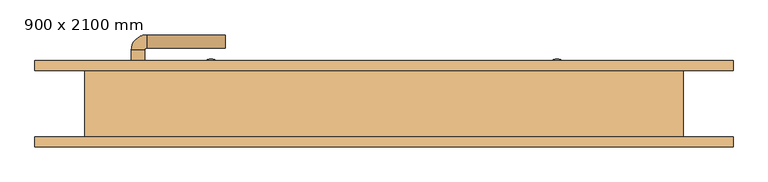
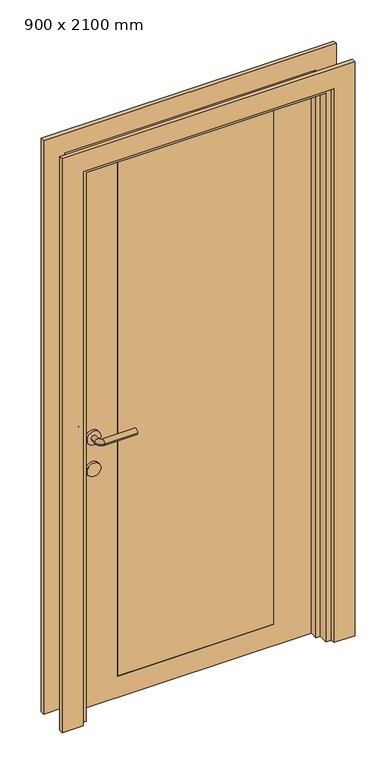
"""IFC4 building model written with IfcOpenShell, lengths in millimetres: door geometry, 单扇平开门-木门 : 900 x 2100 mm."""

from ifc_helpers import new_model, si_unit, point, frame, frame_2d, origin, origin_with_axes, place, context, project, spatial, polyline, circle_curve, ellipse_curve, trimmed, segment, composite_curve, outline, extrude, faceted_brep, source, transform, mapped, element, save
from ifc_brep_helpers import plane_surface, cylinder_surface, revolved_surface, advanced_brep


def door_900_x_2100_mm_efe0f083(model_context):
    return source(origin(), model_context, "Body", "SolidModel", [
        extrude(outline(composite_curve([segment(trimmed(circle_curve(frame_2d((900.0, -370.0)), 25.0), [point((900.0, -345.0))], [point((900.0, -395.0))], False, "CARTESIAN"), True, "CONTINUOUS"), segment(trimmed(circle_curve(frame_2d((900.0, -370.0)), 25.0), [point((900.0, -395.0))], [point((900.0, -345.0))], False, "CARTESIAN"), True, "CONTINUOUS")], self_intersect=False)), frame((0.0, 5.0, 0.0), z_axis=(0.0, 1.0, 0.0), x_axis=(0.0, 0.0, 1.0)), (0.0, 0.0, 1.0), 10.0),
        extrude(outline(composite_curve([segment(trimmed(circle_curve(frame_2d((900.0, -370.0)), 25.0), [point((900.0, -345.0))], [point((900.0, -395.0))], False, "CARTESIAN"), True, "CONTINUOUS"), segment(trimmed(circle_curve(frame_2d((900.0, -370.0)), 25.0), [point((900.0, -395.0))], [point((900.0, -345.0))], False, "CARTESIAN"), True, "CONTINUOUS")], self_intersect=False)), frame((0.0, 50.0, 0.0), z_axis=(0.0, 1.0, 0.0), x_axis=(0.0, 0.0, 1.0)), (0.0, 0.0, 1.0), 10.0),
        advanced_brep(
        [(-380.0, 5.0, 1020.0), (-360.0, 5.0, 1020.0), (-360.0, -15.613355, 1020.0), (-380.0, -15.613355, 1020.0), (-238.419036, -38.580964, 1020.0), (-238.419036, -18.580964, 1020.0), (-357.0323911, -18.580964, 1020.0), (-357.0323911, -38.580964, 1020.0)],
        [
            (0, 1, circle_curve(frame((-370.0, 5.0, 1020.0), z_axis=(0.0, 1.0, 0.0), x_axis=(1.0, 0.0, 0.0)), 10.0)),
            (1, 0, circle_curve(frame((-370.0, 5.0, 1020.0), z_axis=(0.0, 1.0, 0.0), x_axis=(1.0, 0.0, 0.0)), 10.0)),
            (1, 2),
            (2, 3, circle_curve(frame((-370.0, -15.613355, 1020.0), z_axis=(0.0, 1.0, 0.0), x_axis=(1.0, 0.0, 0.0)), 10.0)),
            (3, 0),
            (3, 2, circle_curve(frame((-370.0, -15.613355, 1020.0), z_axis=(0.0, 1.0, 0.0), x_axis=(1.0, 0.0, 0.0)), 10.0)),
            (4, 5, circle_curve(frame((-238.419036, -28.580964, 1020.0), z_axis=(1.0, 0.0, 0.0), x_axis=(0.0, 1.0, 0.0)), 10.0)),
            (5, 4, circle_curve(frame((-238.419036, -28.580964, 1020.0), z_axis=(1.0, 0.0, 0.0), x_axis=(0.0, 1.0, 0.0)), 10.0)),
            (6, 2, circle_curve(frame((-357.0323911, -15.613355, 1020.0), z_axis=(0.0, 0.0, -1.0), x_axis=(-1.0, 0.0, 0.0)), 2.9676089)),
            (3, 7, circle_curve(frame((-357.0323911, -15.613355, 1020.0), z_axis=(0.0, 0.0, 1.0), x_axis=(-1.0, 0.0, 0.0)), 22.9676089)),
            (7, 6, circle_curve(frame((-357.0323911, -28.580964, 1020.0), z_axis=(-1.0, 0.0, 0.0), x_axis=(0.0, 1.0, 0.0)), 10.0)),
            (6, 7, circle_curve(frame((-357.0323911, -28.580964, 1020.0), z_axis=(-1.0, 0.0, 0.0), x_axis=(0.0, 1.0, 0.0)), 10.0)),
            (7, 4),
            (5, 6),
        ],
        [
            plane_surface(frame((-370.0, 5.0, 900.0), z_axis=(0.0, 1.0, 0.0), x_axis=(0.0, 0.0, 1.0))),
            cylinder_surface(frame((-370.0, 5.0, 1020.0), z_axis=(0.0, 1.0, 0.0), x_axis=(1.0, 0.0, 0.0)), 10.0),
            plane_surface(frame((-238.419036, -28.580964, 900.0), z_axis=(1.0, 0.0, 0.0), x_axis=(0.0, 0.0, 1.0))),
            revolved_surface(trimmed(ellipse_curve(frame((-370.0, -15.613355, 1020.0), z_axis=(0.0, 1.0, 0.0), x_axis=(1.0, 0.0, 0.0)), 10.0, 10.0), [point((-380.0, -15.613355, 1020.0))], [point((-360.0, -15.613355, 1020.0))], True, "CARTESIAN"), (-357.0323911, -15.613355, 900.0), (0.0, 0.0, 1.0)),
            revolved_surface(trimmed(ellipse_curve(frame((-370.0, -15.613355, 1020.0), z_axis=(0.0, 1.0, 0.0), x_axis=(1.0, 0.0, 0.0)), 10.0, 10.0), [point((-360.0, -15.613355, 1020.0))], [point((-380.0, -15.613355, 1020.0))], True, "CARTESIAN"), (-357.0323911, -15.613355, 900.0), (0.0, 0.0, 1.0)),
            cylinder_surface(frame((-357.0323911, -28.580964, 1020.0), z_axis=(-1.0, 0.0, 0.0), x_axis=(0.0, 1.0, 0.0)), 10.0),
        ],
        [
            (0, [[1, 2]]),
            (1, [[-2, 3, 4, 5]]),
            (1, [[-1, -5, 6, -3]]),
            (2, [[7, 8]]),
            (3, [[9, -6, 10, 11]]),
            (4, [[-10, -4, -9, 12]]),
            (5, [[-11, 13, -8, 14]]),
            (5, [[-12, -14, -7, -13]]),
        ],
    ),
        extrude(outline(composite_curve([segment(trimmed(circle_curve(frame_2d((1020.0, -370.0)), 25.0), [point((1020.0, -345.0))], [point((1020.0, -395.0))], False, "CARTESIAN"), True, "CONTINUOUS"), segment(trimmed(circle_curve(frame_2d((1020.0, -370.0)), 25.0), [point((1020.0, -395.0))], [point((1020.0, -345.0))], False, "CARTESIAN"), True, "CONTINUOUS")], self_intersect=False)), frame((0.0, 5.0, 0.0), z_axis=(0.0, 1.0, 0.0), x_axis=(0.0, 0.0, 1.0)), (0.0, 0.0, 1.0), 10.0),
        advanced_brep(
        [(-360.0, 60.0, 1020.0), (-380.0, 60.0, 1020.0), (-360.0, 80.6133551, 1020.0), (-380.0, 80.6133551, 1020.0), (-238.419036, 83.580964, 1020.0), (-238.419036, 103.580964, 1020.0), (-357.0323911, 103.580964, 1020.0), (-357.0323911, 83.580964, 1020.0)],
        [
            (0, 1, circle_curve(frame((-370.0, 60.0, 1020.0), z_axis=(0.0, -1.0, 0.0), x_axis=(-1.0, 0.0, 0.0)), 10.0)),
            (1, 0, circle_curve(frame((-370.0, 60.0, 1020.0), z_axis=(0.0, -1.0, 0.0), x_axis=(-1.0, 0.0, 0.0)), 10.0)),
            (0, 2),
            (2, 3, circle_curve(frame((-370.0, 80.6133551, 1020.0), z_axis=(0.0, -1.0, 0.0), x_axis=(-1.0, 0.0, 0.0)), 10.0)),
            (3, 1),
            (3, 2, circle_curve(frame((-370.0, 80.6133551, 1020.0), z_axis=(0.0, -1.0, 0.0), x_axis=(-1.0, 0.0, 0.0)), 10.0)),
            (4, 5, circle_curve(frame((-238.419036, 93.580964, 1020.0), z_axis=(1.0, 0.0, 0.0), x_axis=(0.0, 1.0, 0.0)), 10.0)),
            (5, 4, circle_curve(frame((-238.419036, 93.580964, 1020.0), z_axis=(1.0, 0.0, 0.0), x_axis=(0.0, 1.0, 0.0)), 10.0)),
            (6, 3, circle_curve(frame((-357.0323911, 80.6133551, 1020.0), z_axis=(0.0, 0.0, 1.0), x_axis=(-1.0, 0.0, 0.0)), 22.9676089)),
            (2, 7, circle_curve(frame((-357.0323911, 80.6133551, 1020.0), z_axis=(0.0, 0.0, -1.0), x_axis=(-1.0, 0.0, 0.0)), 2.9676089)),
            (7, 6, circle_curve(frame((-357.0323911, 93.580964, 1020.0), z_axis=(-1.0, 0.0, 0.0), x_axis=(0.0, 1.0, 0.0)), 10.0)),
            (6, 7, circle_curve(frame((-357.0323911, 93.580964, 1020.0), z_axis=(-1.0, 0.0, 0.0), x_axis=(0.0, 1.0, 0.0)), 10.0)),
            (7, 4),
            (5, 6),
        ],
        [
            plane_surface(frame((-370.0, 60.0, 900.0), z_axis=(0.0, -1.0, 0.0), x_axis=(0.0, 0.0, 1.0))),
            cylinder_surface(frame((-370.0, 60.0, 1020.0), z_axis=(0.0, -1.0, 0.0), x_axis=(-1.0, 0.0, 0.0)), 10.0),
            plane_surface(frame((-238.419036, 93.580964, 900.0), z_axis=(1.0, 0.0, 0.0), x_axis=(0.0, 0.0, 1.0))),
            revolved_surface(trimmed(ellipse_curve(frame((-370.0, 80.6133551, 1020.0), z_axis=(0.0, -1.0, 0.0), x_axis=(-1.0, 0.0, 0.0)), 10.0, 10.0), [point((-360.0, 80.6133551, 1020.0))], [point((-380.0, 80.6133551, 1020.0))], True, "CARTESIAN"), (-357.0323911, 80.6133551, 900.0), (0.0, 0.0, -1.0)),
            revolved_surface(trimmed(ellipse_curve(frame((-370.0, 80.6133551, 1020.0), z_axis=(0.0, -1.0, 0.0), x_axis=(-1.0, 0.0, 0.0)), 10.0, 10.0), [point((-380.0, 80.6133551, 1020.0))], [point((-360.0, 80.6133551, 1020.0))], True, "CARTESIAN"), (-357.0323911, 80.6133551, 900.0), (0.0, 0.0, -1.0)),
            cylinder_surface(frame((-357.0323911, 93.580964, 1020.0), z_axis=(-1.0, 0.0, 0.0), x_axis=(0.0, 1.0, 0.0)), 10.0),
        ],
        [
            (0, [[1, 2]]),
            (1, [[-1, 3, 4, 5]]),
            (1, [[-2, -5, 6, -3]]),
            (2, [[7, 8]]),
            (3, [[9, -4, 10, 11]]),
            (4, [[-10, -6, -9, 12]]),
            (5, [[-11, 13, -8, 14]]),
            (5, [[-12, -14, -7, -13]]),
        ],
    ),
        extrude(outline(composite_curve([segment(trimmed(circle_curve(frame_2d((1020.0, -370.0)), 25.0), [point((1020.0, -345.0))], [point((1020.0, -395.0))], False, "CARTESIAN"), True, "CONTINUOUS"), segment(trimmed(circle_curve(frame_2d((1020.0, -370.0)), 25.0), [point((1020.0, -395.0))], [point((1020.0, -345.0))], False, "CARTESIAN"), True, "CONTINUOUS")], self_intersect=False)), frame((0.0, 50.0, 0.0), z_axis=(0.0, 1.0, 0.0), x_axis=(0.0, 0.0, 1.0)), (0.0, 0.0, 1.0), 10.0),
        extrude(outline(polyline([(2100.0, -450.0), (2100.0, 450.0), (0.0, 450.0), (0.0, 525.0), (2175.0, 525.0), (2175.0, -525.0), (0.0, -525.0), (0.0, -450.0), (2100.0, -450.0)])), frame((0.0, 50.0, 0.0), z_axis=(0.0, 1.0, 0.0), x_axis=(0.0, 0.0, 1.0)), (0.0, 0.0, 1.0), 15.0),
        extrude(outline(polyline([(2175.0, -525.0), (0.0, -525.0), (0.0, -450.0), (2100.0, -450.0), (2100.0, 450.0), (0.0, 450.0), (0.0, 525.0), (2175.0, 525.0), (2175.0, -525.0)])), frame((0.0, -65.0, 0.0), z_axis=(0.0, 1.0, 0.0), x_axis=(0.0, 0.0, 1.0)), (0.0, 0.0, 1.0), 15.0),
        extrude(outline(polyline([(2080.0, 430.0), (2080.0, -430.0), (0.0, -430.0), (0.0, 430.0), (2080.0, 430.0)]), holes=[polyline([(2060.0, 280.0), (80.0, 280.0), (80.0, -280.0), (2060.0, -280.0), (2060.0, 280.0)])]), frame((0.0, 15.0, 0.0), z_axis=(0.0, 1.0, 0.0), x_axis=(0.0, 0.0, 1.0)), (0.0, 0.0, 1.0), 35.0),
        extrude(outline(composite_curve([segment(polyline([(-280.0, 50.0), (-280.0, 51.0)]), True, "CONTINUOUS"), segment(trimmed(circle_curve(frame_2d((-273.0, 51.0)), 7.0), [point((-280.0, 51.0))], [point((-273.0, 58.0))], False, "CARTESIAN"), True, "CONTINUOUS"), segment(trimmed(circle_curve(frame_2d((-260.0, 53.3201295)), 13.8166996), [point((-273.0, 58.0))], [point((-247.0, 58.0))], False, "CARTESIAN"), True, "CONTINUOUS"), segment(trimmed(circle_curve(frame_2d((-247.0, 51.0)), 7.0), [point((-247.0, 58.0))], [point((-240.0, 51.0))], False, "CARTESIAN"), True, "CONTINUOUS"), segment(polyline([(-240.0, 51.0), (-240.0, 50.0), (-280.0, 50.0)]), True, "CONTINUOUS")], self_intersect=False)), origin_with_axes(), (0.0, 0.0, 1.0), 2080.0),
        extrude(outline(composite_curve([segment(polyline([(280.0, 50.0), (240.0, 50.0), (240.0, 51.0)]), True, "CONTINUOUS"), segment(trimmed(circle_curve(frame_2d((247.0, 51.0)), 7.0), [point((240.0, 51.0))], [point((247.0, 58.0))], False, "CARTESIAN"), True, "CONTINUOUS"), segment(trimmed(circle_curve(frame_2d((260.0, 53.3201295)), 13.8166996), [point((247.0, 58.0))], [point((273.0, 58.0))], False, "CARTESIAN"), True, "CONTINUOUS"), segment(trimmed(circle_curve(frame_2d((273.0, 51.0)), 7.0), [point((273.0, 58.0))], [point((280.0, 51.0))], False, "CARTESIAN"), True, "CONTINUOUS"), segment(polyline([(280.0, 51.0), (280.0, 50.0)]), True, "CONTINUOUS")], self_intersect=False)), origin_with_axes(), (0.0, 0.0, 1.0), 2080.0),
        extrude(outline(polyline([(280.0, 50.0), (280.0, 15.0), (-280.0, 15.0), (-280.0, 50.0), (280.0, 50.0)])), frame((0.0, 0.0, 80.0), z_axis=(0.0, 0.0, 1.0), x_axis=(1.0, 0.0, 0.0)), (0.0, 0.0, 1.0), 1980.0),
        faceted_brep([(450.0, 50.0, 0.0), (450.0, -50.0, 0.0), (430.0, -50.0, 0.0), (430.0, -15.0, 0.0), (415.0, -15.0, 0.0), (415.0, 15.0, 0.0), (430.0, 15.0, 0.0), (430.0, 50.0, 0.0), (450.0, 50.0, 2100.0), (450.0, -50.0, 2100.0), (-450.0, -50.0, 2100.0), (-450.0, -50.0, 0.0), (-430.0, -50.0, 0.0), (-430.0, -50.0, 2080.0), (430.0, -50.0, 2080.0), (430.0, -15.0, 2080.0), (-430.0, -15.0, 2080.0), (-430.0, -15.0, 0.0), (-415.0, -15.0, 0.0), (-415.0, -15.0, 2065.0), (415.0, -15.0, 2065.0), (415.0, 15.0, 2065.0), (-415.0, 15.0, 2065.0), (-415.0, 15.0, 0.0), (-430.0, 15.0, 0.0), (-430.0, 15.0, 2080.0), (430.0, 15.0, 2080.0), (430.0, 50.0, 2080.0), (-430.0, 50.0, 2080.0), (-430.0, 50.0, 0.0), (-450.0, 50.0, 0.0), (-450.0, 50.0, 2100.0)], [[[0, 1, 2, 3, 4, 5, 6, 7]], [[1, 0, 8, 9]], [[2, 1, 9, 10, 11, 12, 13, 14]], [[3, 2, 14, 15]], [[4, 3, 15, 16, 17, 18, 19, 20]], [[5, 4, 20, 21]], [[6, 5, 21, 22, 23, 24, 25, 26]], [[7, 6, 26, 27]], [[0, 7, 27, 28, 29, 30, 31, 8]], [[9, 8, 31, 10]], [[15, 14, 13, 16]], [[21, 20, 19, 22]], [[27, 26, 25, 28]], [[30, 29, 24, 23, 18, 17, 12, 11]], [[10, 31, 30, 11]], [[16, 13, 12, 17]], [[22, 19, 18, 23]], [[28, 25, 24, 29]]]),
    ])


if __name__ == "__main__":
    model = new_model("IFC4")
    model_context = context("Model", 3, world=origin())
    ifc_project = project(units=[si_unit("LENGTHUNIT", "METRE", prefix="MILLI")], contexts=[model_context])
    site = spatial("IfcSite", under=ifc_project)
    building = spatial("IfcBuilding", under=site)
    placement = place(None, origin())
    door_900_x_2100_mm_shape = door_900_x_2100_mm_efe0f083(model_context)
    element("IfcDoor", 1, ObjectType="单扇平开门-木门 : 900 x 2100 mm", at=placement, inside=building, context=model_context, shape_type="MappedRepresentation", body=[
        mapped(door_900_x_2100_mm_shape, transform((0.0, 0.0, 0.0), x_axis=(1.0, 0.0, 0.0), y_axis=(0.0, 1.0, 0.0), z_axis=(0.0, 0.0, 1.0))),
    ])
    save(model, "model.ifc")
